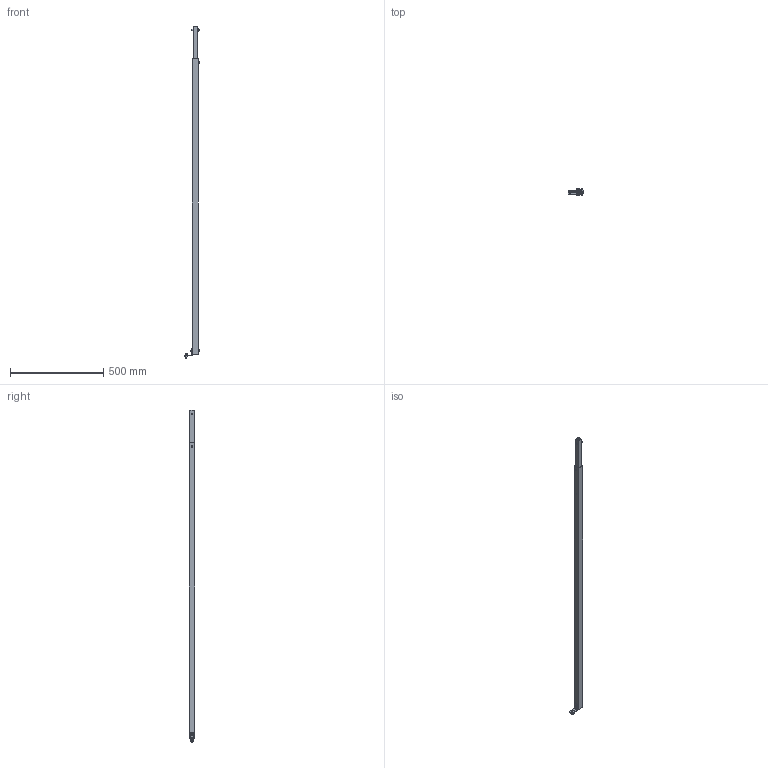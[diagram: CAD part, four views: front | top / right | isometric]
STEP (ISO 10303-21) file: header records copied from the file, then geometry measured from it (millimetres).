
FILE_DESCRIPTION((''),'2;1');
FILE_NAME('27M400-06_ASM','2023-02-27T',('jenni.wallner'),(''),'PRO/ENGINEER BY PARAMETRIC TECHNOLOGY CORPORATION, 2012420','PRO/ENGINEER BY PARAMETRIC TECHNOLOGY CORPORATION, 2012420','');
FILE_SCHEMA(('CONFIG_CONTROL_DESIGN'));
Length unit declared in the file: inch
Products named in the file (11): PRT0001_1; 233206_CAE_1; 639971M_CAE_1; 9206XXM_920635M_1; 9206XXM_920640M_1; 9206XXM_920612M_1; 233108M_1; 920616M_1; ASM0001_ASM_1_ASM; 27M400-06_ASM_1_ASM; 27M400-06_ASM
Assembly tree (12 placements, depth 4):
  27M400-06_ASM
    27M400-06_ASM_1_ASM
      ASM0001_ASM_1_ASM
        PRT0001_1
        233206_CAE_1
        639971M_CAE_1  x3
        9206XXM_920635M_1
        9206XXM_920640M_1
        9206XXM_920612M_1
        233108M_1
        920616M_1
Bounding box: 80.97 x 31.75 x 1781.63 mm (x, y, z)
Volume: 670409.7 mm3; surface area: 433304.8 mm2
Topology: 10 solids, 11 shells, 233 faces, 575 edges, 370 vertices
Faces by surface type: plane 120, cylinder 74, cone 39
Entity records: 5660 total; most frequent: CARTESIAN_POINT 1083, DIRECTION 983, ORIENTED_EDGE 842, EDGE_CURVE 423, AXIS2_PLACEMENT_3D 367, VERTEX_POINT 266, VECTOR 249, LINE 249
